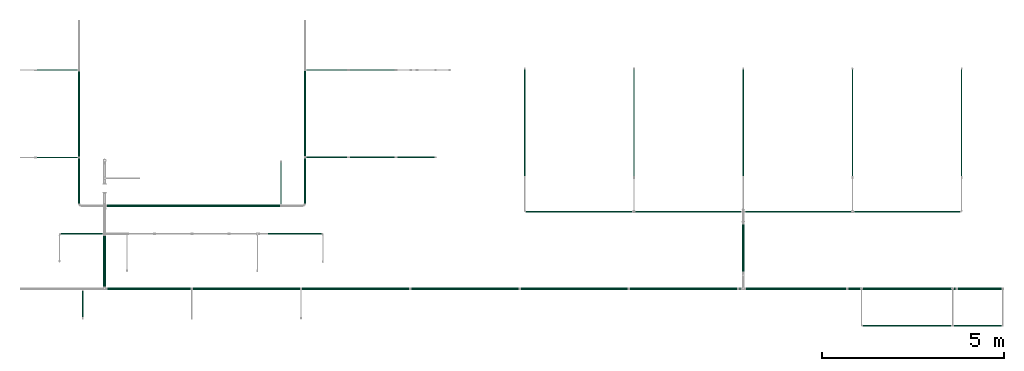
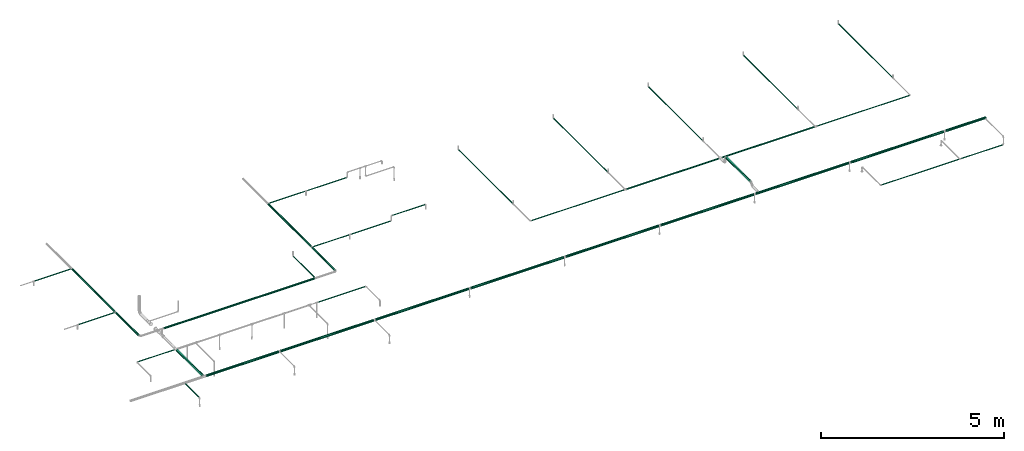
# One storey, part 1 of 45: 38 flow segments.
"""IFC2X3 building model written with IfcOpenShell, lengths in millimetres."""

from ifc_helpers import new_model, entity, si_unit, converted_unit, derived_unit, direction, frame, origin_with_axes, origin_2d_with_axis, place, context, subcontext, project, spatial, hollow_circle, extrude, source, transform, mapped, type_object, element, save


model = new_model("IFC2X3")

# Units and contexts
model_context = context("Model", 3, precision=0.01, world=frame((0.0, 4.29681676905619e-09, 0.0)), true_north=direction((4.01073788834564e-13, 1.0)))
plan_context = context("Plan", 3, precision=0.01, world=frame((0.0, 4.29681676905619e-09, 0.0)), true_north=direction((4.01073788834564e-13, 1.0)))
body_context = subcontext(model_context, "Body", "Model", "MODEL_VIEW")
ifc_project = project(units=[converted_unit("PLANEANGLEUNIT", "DEGREE", entity("IfcPositiveLengthMeasure", 0.0174532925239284), si_unit("PLANEANGLEUNIT", "RADIAN"), dimensions=[0, 0, 0, 0, 0, 0, 0]), si_unit("AREAUNIT", "SQUARE_METRE"), si_unit("LENGTHUNIT", "METRE", prefix="MILLI"), si_unit("MASSUNIT", "GRAM", prefix="KILO"), si_unit("POWERUNIT", "WATT"), si_unit("PRESSUREUNIT", "PASCAL", prefix="KILO"), si_unit("FORCEUNIT", "NEWTON", prefix="KILO"), si_unit("ELECTRICVOLTAGEUNIT", "VOLT"), si_unit("ELECTRICCURRENTUNIT", "AMPERE"), si_unit("THERMODYNAMICTEMPERATUREUNIT", "DEGREE_CELSIUS"), si_unit("TIMEUNIT", "SECOND"), si_unit("VOLUMEUNIT", "CUBIC_METRE"), derived_unit("LINEARVELOCITYUNIT", [(si_unit("LENGTHUNIT", "METRE"), 1), (si_unit("TIMEUNIT", "SECOND"), -1)]), derived_unit("VOLUMETRICFLOWRATEUNIT", [(si_unit("VOLUMEUNIT", "CUBIC_METRE"), 1), (si_unit("TIMEUNIT", "SECOND"), -1)]), derived_unit("THERMALTRANSMITTANCEUNIT", [(si_unit("POWERUNIT", "WATT"), 1), (si_unit("THERMODYNAMICTEMPERATUREUNIT", "KELVIN"), -1), (si_unit("AREAUNIT", "SQUARE_METRE"), -1)]), derived_unit("SOUNDPRESSUREUNIT", [(si_unit("PRESSUREUNIT", "PASCAL"), 1)])], contexts=[model_context, plan_context])

# Site, building, storey
site_placement = place(None, frame((0.0, -4.29681676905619e-09, 0.0), z_axis=(0.0, 0.0, 1.0), x_axis=(1.0, 0.0, 0.0)))
site = spatial("IfcSite", under=ifc_project, at=site_placement, CompositionType="ELEMENT")
building_placement = place(site_placement, frame((0.0, 4.29681676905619e-09, 0.0), z_axis=(0.0, 0.0, 1.0), x_axis=(1.0, 0.0, 0.0)))
building = spatial("IfcBuilding", under=site, at=building_placement, Name="mc-building", CompositionType="ELEMENT")
storey_placement = place(building_placement, frame((0.0, 0.0, 210200.0), z_axis=(0.0, 0.0, 1.0), x_axis=(1.0, 0.0, 0.0)))
storey = spatial("IfcBuildingStorey", under=building, at=storey_placement, Name="Nivå F - 0,7 m", CompositionType="ELEMENT", Elevation=210200.0)

# Flow segments
pipe_segment_type = type_object("IfcPipeSegmentType", Name="Stålrør normaltykke", PredefinedType="RIGIDSEGMENT")
shared_shape_1 = source(origin_with_axes(), body_context, "Body", "SweptSolid", [
    extrude(hollow_circle(Radius=38.0, WallThickness=2.0, at=origin_2d_with_axis()), frame((0.0, 0.0, 0.0), z_axis=(1.0, 0.0, 0.0), x_axis=(0.0, 1.0, 0.0)), (0.0, 0.0, 1.0), 2932.4),
])
for number, where, z_axis, x_axis in (
    (1, (332552.41043, 460120.00018, 2938.0), (0.0, 0.0, 1.0), (1.0, 0.0, 0.0)),
    (2, (344552.41043, 460120.00018, 2938.0), (0.0, 0.0, 1.0), (1.0, 0.0, 0.0)),
    (3, (344484.81043, 460120.00018, 2938.0), (0.0, 0.0, 1.0), (-1.0, 0.0, 0.0)),
    (4, (338552.41043, 460120.00018, 2938.0), (0.0, 0.0, 1.0), (1.0, 0.0, 0.0)),
    (5, (335552.41043, 460120.00018, 2938.0), (0.0, 0.0, 1.0), (1.0, 0.0, 0.0)),
    (6, (326547.0, 460120.00018, 2938.0), (0.0, 0.0, 1.0), (1.0, 0.0, 0.0)),
):
    element("IfcFlowSegment", number, at=place(storey_placement, frame(where, z_axis=z_axis, x_axis=x_axis)), inside=storey, type_object=pipe_segment_type, Name="Stålrør normaltykke", context=body_context, shape_type="MappedRepresentation", body=[
        mapped(shared_shape_1, transform((0.0, 0.0, 0.0), scale=1.0)),
    ])
shared_shape_2 = source(origin_with_axes(), body_context, "Body", "SweptSolid", [
    extrude(hollow_circle(Radius=38.0, WallThickness=2.0, at=origin_2d_with_axis()), frame((0.0, 0.0, 0.0), z_axis=(1.0, 0.0, 0.0), x_axis=(0.0, 1.0, 0.0)), (0.0, 0.0, 1.0), 2937.8),
])
flow_segment_1_placement = place(storey_placement, frame((329547.0, 460120.00018, 2938.0), z_axis=(0.0, 0.0, 1.0), x_axis=(1.0, 0.0, 0.0)))
element("IfcFlowSegment", 7, at=flow_segment_1_placement, inside=storey, type_object=pipe_segment_type, Name="Stålrør normaltykke", context=body_context, shape_type="MappedRepresentation", body=[
    mapped(shared_shape_2, transform((0.0, 0.0, 0.0), scale=1.0)),
])
shared_shape_3 = source(origin_with_axes(), body_context, "Body", "SweptSolid", [
    extrude(hollow_circle(Radius=38.0, WallThickness=2.0, at=origin_2d_with_axis()), frame((0.0, 0.0, 0.0), z_axis=(1.0, 0.0, 0.0), x_axis=(0.0, 1.0, 0.0)), (0.0, 0.0, 1.0), 1390.9),
])
flow_segment_2_placement = place(storey_placement, frame((324119.17326, 461568.00208, 2938.0), z_axis=(0.0, 0.0, 1.0), x_axis=(0.0, -1.0, 0.0)))
element("IfcFlowSegment", 8, at=flow_segment_2_placement, inside=storey, type_object=pipe_segment_type, Name="Stålrør normaltykke", context=body_context, shape_type="MappedRepresentation", body=[
    mapped(shared_shape_3, transform((0.0, 0.0, 0.0), scale=1.0)),
])
shared_shape_4 = source(origin_with_axes(), body_context, "Body", "SweptSolid", [
    extrude(hollow_circle(Radius=30.1, WallThickness=2.0, at=origin_2d_with_axis()), frame((0.0, 0.0, 0.0), z_axis=(1.0, 0.0, 0.0), x_axis=(0.0, 1.0, 0.0)), (0.0, 0.0, 1.0), 1228.8),
])
flow_segment_3_placement = place(storey_placement, frame((323419.17326, 463689.45463, 3145.0), z_axis=(0.0, 0.0, 1.0), x_axis=(0.0, -1.0, 0.0)))
element("IfcFlowSegment", 9, at=flow_segment_3_placement, inside=storey, type_object=pipe_segment_type, Name="Stålrør normaltykke", context=body_context, shape_type="MappedRepresentation", body=[
    mapped(shared_shape_4, transform((0.0, 0.0, 0.0), scale=1.0)),
])
shared_shape_5 = source(origin_with_axes(), body_context, "Body", "SweptSolid", [
    extrude(hollow_circle(Radius=30.1, WallThickness=2.0, at=origin_2d_with_axis()), frame((0.0, 0.0, 0.0), z_axis=(1.0, 0.0, 0.0), x_axis=(0.0, 1.0, 0.0)), (0.0, 0.0, 1.0), 1233.8),
])
flow_segment_4_placement = place(storey_placement, frame((329619.17326, 463694.45463, 3145.0), z_axis=(0.0, 0.0, 1.0), x_axis=(0.0, -1.0, 0.0)))
element("IfcFlowSegment", 10, at=flow_segment_4_placement, inside=storey, type_object=pipe_segment_type, Name="Stålrør normaltykke", context=body_context, shape_type="MappedRepresentation", body=[
    mapped(shared_shape_5, transform((0.0, 0.0, 0.0), scale=1.0)),
])
shared_shape_6 = source(origin_with_axes(), body_context, "Body", "SweptSolid", [
    extrude(hollow_circle(Radius=30.1, WallThickness=2.0, at=origin_2d_with_axis()), frame((0.0, 0.0, 0.0), z_axis=(1.0, 0.0, 0.0), x_axis=(0.0, 1.0, 0.0)), (0.0, 0.0, 1.0), 4751.1),
])
flow_segment_5_placement = place(storey_placement, frame((328930.7, 462400.28184, 3145.0), z_axis=(0.0, 0.0, 1.0), x_axis=(-1.0, 0.0, 0.0)))
element("IfcFlowSegment", 11, at=flow_segment_5_placement, inside=storey, type_object=pipe_segment_type, Name="Stålrør normaltykke", context=body_context, shape_type="MappedRepresentation", body=[
    mapped(shared_shape_6, transform((0.0, 0.0, 0.0), scale=1.0)),
])
shared_shape_7 = source(origin_with_axes(), body_context, "Body", "SweptSolid", [
    extrude(hollow_circle(Radius=16.9, WallThickness=2.0, at=origin_2d_with_axis()), frame((0.0, 0.0, 0.0), z_axis=(1.0, 0.0, 0.0), x_axis=(0.0, 1.0, 0.0)), (0.0, 0.0, 1.0), 1025.2),
])
flow_segment_6_placement = place(storey_placement, frame((333185.37326, 463728.25463, 3316.68979999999), z_axis=(0.0, 0.0, 1.0), x_axis=(-1.0, 0.0, 0.0)))
element("IfcFlowSegment", 12, at=flow_segment_6_placement, inside=storey, type_object=pipe_segment_type, Name="Stålrør normaltykke", context=body_context, shape_type="MappedRepresentation", body=[
    mapped(shared_shape_7, transform((0.0, 0.0, 0.0), scale=1.0)),
])
shared_shape_8 = source(origin_with_axes(), body_context, "Body", "SweptSolid", [
    extrude(hollow_circle(Radius=16.9, WallThickness=2.0, at=origin_2d_with_axis()), frame((0.0, 0.0, 0.0), z_axis=(1.0, 0.0, 0.0), x_axis=(0.0, 1.0, 0.0)), (0.0, 0.0, 1.0), 1120.9),
])
for number, where, z_axis, x_axis in (
    (13, (329664.47326, 463728.25463, 3145.0), (0.0, 0.0, 1.0), (1.0, 0.0, 0.0)),
    (14, (330785.37326, 466128.25463, 3145.0), (0.0, 0.0, 1.0), (-1.0, 0.0, 0.0)),
):
    element("IfcFlowSegment", number, at=place(storey_placement, frame(where, z_axis=z_axis, x_axis=x_axis)), inside=storey, type_object=pipe_segment_type, Name="Stålrør normaltykke", context=body_context, shape_type="MappedRepresentation", body=[
        mapped(shared_shape_8, transform((0.0, 0.0, 0.0), scale=1.0)),
    ])
shared_shape_9 = source(origin_with_axes(), body_context, "Body", "SweptSolid", [
    extrude(hollow_circle(Radius=16.9, WallThickness=2.0, at=origin_2d_with_axis()), frame((0.0, 0.0, 0.0), z_axis=(1.0, 0.0, 0.0), x_axis=(0.0, 1.0, 0.0)), (0.0, 0.0, 1.0), 1239.6),
])
for number, where, z_axis, x_axis in (
    (15, (330852.97326, 463728.25463, 3145.0), (0.0, 0.0, 1.0), (1.0, 0.0, 0.0)),
    (16, (330852.97326, 466128.25463, 3145.0), (0.0, 0.0, 1.0), (1.0, 0.0, 0.0)),
):
    element("IfcFlowSegment", number, at=place(storey_placement, frame(where, z_axis=z_axis, x_axis=x_axis)), inside=storey, type_object=pipe_segment_type, Name="Stålrør normaltykke", context=body_context, shape_type="MappedRepresentation", body=[
        mapped(shared_shape_9, transform((0.0, 0.0, 0.0), scale=1.0)),
    ])
shared_shape_10 = source(origin_with_axes(), body_context, "Body", "SweptSolid", [
    extrude(hollow_circle(Radius=16.9, WallThickness=2.0, at=origin_2d_with_axis()), frame((0.0, 0.0, 0.0), z_axis=(1.0, 0.0, 0.0), x_axis=(0.0, 1.0, 0.0)), (0.0, 0.0, 1.0), 1481.4),
])
flow_segment_7_placement = place(storey_placement, frame((328598.3461, 461628.40208, 2938.0), z_axis=(0.0, 0.0, 1.0), x_axis=(1.0, 0.0, 0.0)))
element("IfcFlowSegment", 17, at=flow_segment_7_placement, inside=storey, type_object=pipe_segment_type, Name="Stålrør normaltykke", context=body_context, shape_type="MappedRepresentation", body=[
    mapped(shared_shape_10, transform((0.0, 0.0, 0.0), scale=1.0)),
])
shared_shape_11 = source(origin_with_axes(), body_context, "Body", "SweptSolid", [
    extrude(hollow_circle(Radius=16.9, WallThickness=2.0, at=origin_2d_with_axis()), frame((0.0, 0.0, 0.0), z_axis=(1.0, 0.0, 0.0), x_axis=(0.0, 1.0, 0.0)), (0.0, 0.0, 1.0), 1124.2),
])
for number, where, z_axis, x_axis in (
    (18, (323373.87326, 463723.25463, 3145.0), (0.0, 0.0, 1.0), (-1.0, 0.0, 0.0)),
    (19, (323373.87326, 466123.25463, 3145.0), (0.0, 0.0, 1.0), (-1.0, 0.0, 0.0)),
):
    element("IfcFlowSegment", number, at=place(storey_placement, frame(where, z_axis=z_axis, x_axis=x_axis)), inside=storey, type_object=pipe_segment_type, Name="Stålrør normaltykke", context=body_context, shape_type="MappedRepresentation", body=[
        mapped(shared_shape_11, transform((0.0, 0.0, 0.0), scale=1.0)),
    ])
shared_shape_12 = source(origin_with_axes(), body_context, "Body", "SweptSolid", [
    extrude(hollow_circle(Radius=30.1, WallThickness=2.0, at=origin_2d_with_axis()), frame((0.0, 0.0, 0.0), z_axis=(1.0, 0.0, 0.0), x_axis=(0.0, 1.0, 0.0)), (0.0, 0.0, 1.0), 2332.4),
])
for number, where, z_axis, x_axis in (
    (20, (329619.17326, 463762.05463, 3145.0), (0.0, 0.0, 1.0), (0.0, 1.0, 0.0)),
    (21, (323419.17326, 466089.45463, 3145.0), (0.0, 0.0, 1.0), (0.0, -1.0, 0.0)),
):
    element("IfcFlowSegment", number, at=place(storey_placement, frame(where, z_axis=z_axis, x_axis=x_axis)), inside=storey, type_object=pipe_segment_type, Name="Stålrør normaltykke", context=body_context, shape_type="MappedRepresentation", body=[
        mapped(shared_shape_12, transform((0.0, 0.0, 0.0), scale=1.0)),
    ])
shared_shape_13 = source(origin_with_axes(), body_context, "Body", "SweptSolid", [
    extrude(hollow_circle(Radius=16.9, WallThickness=2.0, at=origin_2d_with_axis()), frame((0.0, 0.0, 0.0), z_axis=(1.0, 0.0, 0.0), x_axis=(0.0, 1.0, 0.0)), (0.0, 0.0, 1.0), 1146.2),
])
flow_segment_8_placement = place(storey_placement, frame((324062.02326, 461628.40208, 2938.0), z_axis=(0.0, 0.0, 1.0), x_axis=(-1.0, 0.0, 0.0)))
element("IfcFlowSegment", 22, at=flow_segment_8_placement, inside=storey, type_object=pipe_segment_type, Name="Stålrør normaltykke", context=body_context, shape_type="MappedRepresentation", body=[
    mapped(shared_shape_13, transform((0.0, 0.0, 0.0), scale=1.0)),
])
shared_shape_14 = source(origin_with_axes(), body_context, "Body", "SweptSolid", [
    extrude(hollow_circle(Radius=16.9, WallThickness=2.0, at=origin_2d_with_axis()), frame((0.0, 0.0, 0.0), z_axis=(1.0, 0.0, 0.0), x_axis=(0.0, 1.0, 0.0)), (0.0, 0.0, 1.0), 729.1),
])
flow_segment_9_placement = place(storey_placement, frame((323518.2, 459333.8, 2938.0), z_axis=(0.0, 0.0, 1.0), x_axis=(0.0, 1.0, 0.0)))
element("IfcFlowSegment", 23, at=flow_segment_9_placement, inside=storey, type_object=pipe_segment_type, Name="Stålrør normaltykke", context=body_context, shape_type="MappedRepresentation", body=[
    mapped(shared_shape_14, transform((0.0, 0.0, 0.0), scale=1.0)),
])
shared_shape_15 = source(origin_with_axes(), body_context, "Body", "SweptSolid", [
    extrude(hollow_circle(Radius=38.0, WallThickness=2.0, at=origin_2d_with_axis()), frame((0.0, 0.0, 0.0), z_axis=(1.0, 0.0, 0.0), x_axis=(0.0, 1.0, 0.0)), (0.0, 0.0, 1.0), 2284.0),
])
flow_segment_10_placement = place(storey_placement, frame((324195.37326, 460120.00018, 2938.0), z_axis=(0.0, 0.0, 1.0), x_axis=(1.0, 0.0, 0.0)))
element("IfcFlowSegment", 24, at=flow_segment_10_placement, inside=storey, type_object=pipe_segment_type, Name="Stålrør normaltykke", context=body_context, shape_type="MappedRepresentation", body=[
    mapped(shared_shape_15, transform((0.0, 0.0, 0.0), scale=1.0)),
])
shared_shape_16 = source(origin_with_axes(), body_context, "Body", "SweptSolid", [
    extrude(hollow_circle(Radius=16.9, WallThickness=2.0, at=origin_2d_with_axis()), frame((0.0, 0.0, 0.0), z_axis=(1.0, 0.0, 0.0), x_axis=(0.0, 1.0, 0.0)), (0.0, 0.0, 1.0), 2932.4),
])
for number, where, z_axis, x_axis in (
    (25, (347657.5, 463210.60156, 2810.44542), (0.0, 0.0, 1.0), (0.0, 1.0, 0.0)),
    (26, (344657.5, 463210.60156, 2810.44542), (0.0, 0.0, 1.0), (0.0, 1.0, 0.0)),
    (27, (341657.5, 463210.60156, 2810.44542), (0.0, 0.0, 1.0), (0.0, 1.0, 0.0)),
    (28, (338657.5, 463210.60156, 2810.44542), (0.0, 0.0, 1.0), (0.0, 1.0, 0.0)),
    (29, (335657.5, 463210.60156, 2810.44542), (0.0, 0.0, 1.0), (0.0, 1.0, 0.0)),
):
    element("IfcFlowSegment", number, at=place(storey_placement, frame(where, z_axis=z_axis, x_axis=x_axis)), inside=storey, type_object=pipe_segment_type, Name="Stålrør normaltykke", context=body_context, shape_type="MappedRepresentation", body=[
        mapped(shared_shape_16, transform((0.0, 0.0, 0.0), scale=1.0)),
    ])
shared_shape_17 = source(origin_with_axes(), body_context, "Body", "SweptSolid", [
    extrude(hollow_circle(Radius=38.0, WallThickness=2.0, at=origin_2d_with_axis()), frame((0.0, 0.0, 0.0), z_axis=(1.0, 0.0, 0.0), x_axis=(0.0, 1.0, 0.0)), (0.0, 0.0, 1.0), 1290.8),
])
flow_segment_11_placement = place(storey_placement, frame((341657.5, 461886.80156, 3031.91450000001), z_axis=(0.0, 0.0, 1.0), x_axis=(0.0, -1.0, 0.0)))
element("IfcFlowSegment", 30, at=flow_segment_11_placement, inside=storey, type_object=pipe_segment_type, Name="Stålrør normaltykke", context=body_context, shape_type="MappedRepresentation", body=[
    mapped(shared_shape_17, transform((0.0, 0.0, 0.0), scale=1.0)),
])
shared_shape_18 = source(origin_with_axes(), body_context, "Body", "SweptSolid", [
    extrude(hollow_circle(Radius=24.1, WallThickness=2.0, at=origin_2d_with_axis()), frame((0.0, 0.0, 0.0), z_axis=(1.0, 0.0, 0.0), x_axis=(0.0, 1.0, 0.0)), (0.0, 0.0, 1.0), 2909.0),
])
for number, where, z_axis, x_axis in (
    (31, (344623.7, 462235.84736, 2810.46786), (0.0, 0.0, 1.0), (-1.0, 0.0, 0.0)),
    (32, (338691.3, 462235.84736, 2810.47042), (0.0, 0.0, 1.0), (1.0, 0.0, 0.0)),
):
    element("IfcFlowSegment", number, at=place(storey_placement, frame(where, z_axis=z_axis, x_axis=x_axis)), inside=storey, type_object=pipe_segment_type, Name="Stålrør normaltykke", context=body_context, shape_type="MappedRepresentation", body=[
        mapped(shared_shape_18, transform((0.0, 0.0, 0.0), scale=1.0)),
    ])
shared_shape_19 = source(origin_with_axes(), body_context, "Body", "SweptSolid", [
    extrude(hollow_circle(Radius=16.9, WallThickness=2.0, at=origin_2d_with_axis()), frame((0.0, 0.0, 0.0), z_axis=(1.0, 0.0, 0.0), x_axis=(0.0, 1.0, 0.0)), (0.0, 0.0, 1.0), 2917.8),
])
for number, where, z_axis, x_axis in (
    (33, (347623.7, 462235.84736, 2810.46849999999), (0.0, 0.0, 1.0), (-1.0, 0.0, 0.0)),
    (34, (335691.3, 462235.84736, 2810.47111000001), (0.0, 0.0, 1.0), (1.0, 0.0, 0.0)),
):
    element("IfcFlowSegment", number, at=place(storey_placement, frame(where, z_axis=z_axis, x_axis=x_axis)), inside=storey, type_object=pipe_segment_type, Name="Stålrør normaltykke", context=body_context, shape_type="MappedRepresentation", body=[
        mapped(shared_shape_19, transform((0.0, 0.0, 0.0), scale=1.0)),
    ])
shared_shape_20 = source(origin_with_axes(), body_context, "Body", "SweptSolid", [
    extrude(hollow_circle(Radius=38.0, WallThickness=2.0, at=origin_2d_with_axis()), frame((0.0, 0.0, 0.0), z_axis=(1.0, 0.0, 0.0), x_axis=(0.0, 1.0, 0.0)), (0.0, 0.0, 1.0), 1269.1),
])
flow_segment_12_placement = place(storey_placement, frame((347552.41043, 460120.00018, 2938.0), z_axis=(0.0, 0.0, 1.0), x_axis=(1.0, 0.0, 0.0)))
element("IfcFlowSegment", 35, at=flow_segment_12_placement, inside=storey, type_object=pipe_segment_type, Name="Stålrør normaltykke", context=body_context, shape_type="MappedRepresentation", body=[
    mapped(shared_shape_20, transform((0.0, 0.0, 0.0), scale=1.0)),
])
shared_shape_21 = source(origin_with_axes(), body_context, "Body", "SweptSolid", [
    extrude(hollow_circle(Radius=16.9, WallThickness=2.0, at=origin_2d_with_axis()), frame((0.0, 0.0, 0.0), z_axis=(1.0, 0.0, 0.0), x_axis=(0.0, 1.0, 0.0)), (0.0, 0.0, 1.0), 2432.4),
])
flow_segment_13_placement = place(storey_placement, frame((347377.15175, 459100.00018, 2665.77103999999), z_axis=(1.1999999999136e-05, 0.0, 0.999999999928), x_axis=(-0.999999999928, 0.0, 1.1999999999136e-05)))
element("IfcFlowSegment", 36, at=flow_segment_13_placement, inside=storey, type_object=pipe_segment_type, Name="Stålrør normaltykke", context=body_context, shape_type="MappedRepresentation", body=[
    mapped(shared_shape_21, transform((0.0, 0.0, 0.0), scale=1.0)),
])
shared_shape_22 = source(origin_with_axes(), body_context, "Body", "SweptSolid", [
    extrude(hollow_circle(Radius=16.9, WallThickness=2.0, at=origin_2d_with_axis()), frame((0.0, 0.0, 0.0), z_axis=(1.0, 0.0, 0.0), x_axis=(0.0, 1.0, 0.0)), (0.0, 0.0, 1.0), 1309.1),
])
flow_segment_14_placement = place(storey_placement, frame((348753.86803, 459100.00018, 2665.75487999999), z_axis=(1.1999999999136e-05, 0.0, 0.999999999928), x_axis=(-0.999999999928, 0.0, 1.1999999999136e-05)))
element("IfcFlowSegment", 37, at=flow_segment_14_placement, inside=storey, type_object=pipe_segment_type, Name="Stålrør normaltykke", context=body_context, shape_type="MappedRepresentation", body=[
    mapped(shared_shape_22, transform((0.0, 0.0, 0.0), scale=1.0)),
])
shared_shape_23 = source(origin_with_axes(), body_context, "Body", "SweptSolid", [
    extrude(hollow_circle(Radius=16.9, WallThickness=2.0, at=origin_2d_with_axis()), frame((0.0, 0.0, 0.0), z_axis=(1.0, 0.0, 0.0), x_axis=(0.0, 1.0, 0.0)), (0.0, 0.0, 1.0), 1143.1),
])
flow_segment_15_placement = place(storey_placement, frame((328964.5, 463588.7, 3145.0), z_axis=(0.0, 0.0, 1.0), x_axis=(0.0, -1.0, 0.0)))
element("IfcFlowSegment", 38, at=flow_segment_15_placement, inside=storey, type_object=pipe_segment_type, Name="Stålrør normaltykke", context=body_context, shape_type="MappedRepresentation", body=[
    mapped(shared_shape_23, transform((0.0, 0.0, 0.0), scale=1.0)),
])

save(model, "model.ifc")
